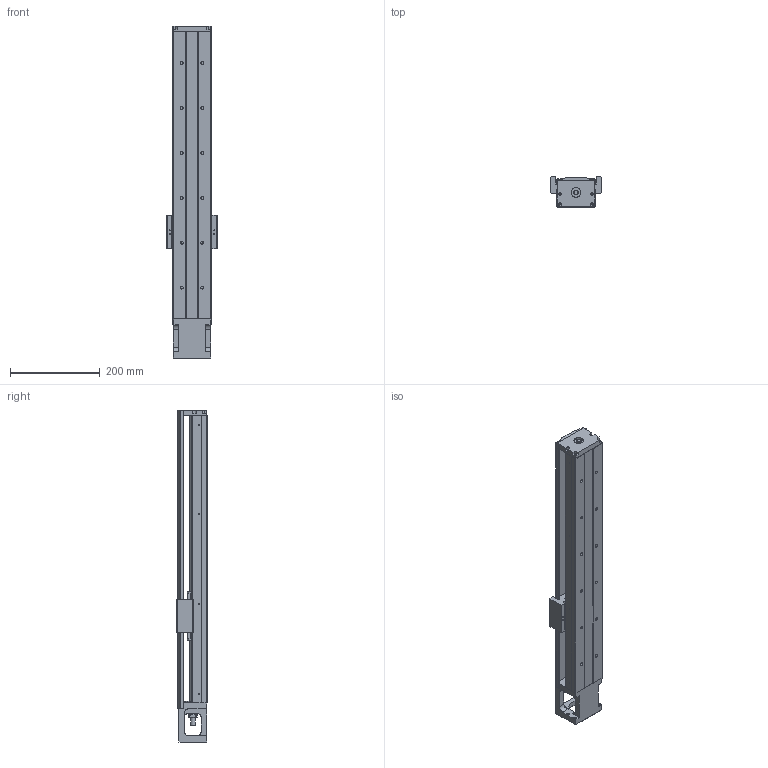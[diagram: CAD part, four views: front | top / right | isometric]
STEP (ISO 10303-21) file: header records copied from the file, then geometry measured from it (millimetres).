
FILE_DESCRIPTION(/* description */ (''),/* implementation_level */ '2;1');
FILE_NAME(/* name */ 'KP46N-640-C-D.stp',/* time_stamp */ '2020-06-05T09:55:54+08:00',/* author */ (''),/* organization */ (''),/* preprocessor_version */ 'ST-DEVELOPER v14',/* originating_system */ 'SIEMENS PLM Software NX 8.0',/* authorisation */ '');
FILE_SCHEMA (('AUTOMOTIVE_DESIGN { 1 0 10303 214 3 1 1 1 }'));
Length unit declared in the file: millimetre
Products named in the file (1): model1
Bounding box: 112 x 68 x 740 mm (x, y, z)
Volume: 1968382.9 mm3; surface area: 500259.4 mm2
Topology: 7 solids, 15 shells, 730 faces, 1906 edges, 1250 vertices
Faces by surface type: plane 344, cylinder 263, cone 62, bspline 53, torus 8
Full cylindrical faces by diameter (mm): 2.11 x4, 2.15 x8, 2.42 x8, 2.5 x4, 3 x6, 3.2 x4, 3.3 x12, 3.4 x8, 4 x4, 4.2 x4, 4.5 x8, 5 x14, 6 x8, 6.35 x2, 6.6 x12, 9.6 x1, 10 x4, 11 x12, 12 x1, 14.95 x2, 15 x1, 16 x2, 22 x3, 27.5 x1, 44 x1, 50 x1
Entity records: 32902 total; most frequent: CARTESIAN_POINT 13452, ORIENTED_EDGE 3282, DIRECTION 3209, EDGE_CURVE 1641, AXIS2_PLACEMENT_3D 1181, VERTEX_POINT 1174, EDGE_LOOP 1031, LINE 847
